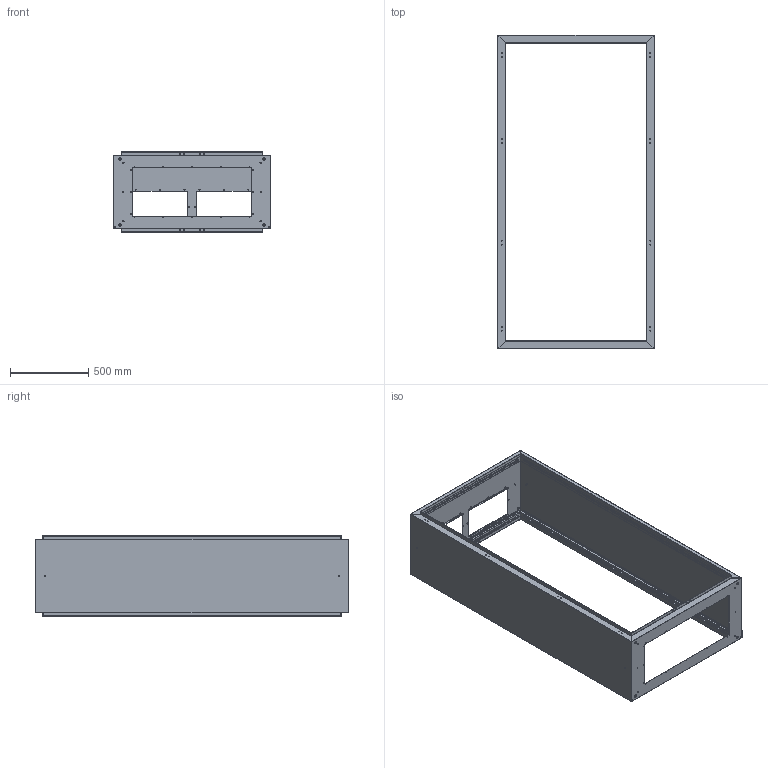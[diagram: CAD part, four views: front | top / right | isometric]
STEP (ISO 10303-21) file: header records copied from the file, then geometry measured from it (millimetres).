
FILE_DESCRIPTION (( 'STEP AP203' ), '1' );
FILE_NAME ('1000x2000x500.STEP', '2021-11-11T16:56:50', ( '' ), ( '' ), 'SwSTEP 2.0', 'SolidWorks 2019', '' );
FILE_SCHEMA (( 'CONFIG_CONTROL_DESIGN' ));
Length unit declared in the file: millimetre
Products named in the file (4): 1000x2000x500; Alt Kapak 1,5mm_monoblok_tekkapakrevize_PP 16.1023 1000Gx500D ALT; Üst Kapak 1,5mm_monoblok_tekkapakrevize_PP 16.1014 1000Gx500D šST; Yan Kapak 1,5mm_monoblok_tekkapakrevize_PP 16.1007 - 2000Yx500D YAN
Assembly tree (4 placements, depth 2):
  1000x2000x500
    Alt Kapak 1,5mm_monoblok_tekkapakrevize_PP 16.1023 1000Gx500D ALT
    Üst Kapak 1,5mm_monoblok_tekkapakrevize_PP 16.1014 1000Gx500D šST
    Yan Kapak 1,5mm_monoblok_tekkapakrevize_PP 16.1007 - 2000Yx500D YAN  x2
Bounding box: 1000 x 2000 x 512 mm (x, y, z)
Volume: 6063483.7 mm3; surface area: 8188126.3 mm2
Topology: 4 solids, 4 shells, 5928 faces, 17480 edges, 11568 vertices
Faces by surface type: plane 3852, cylinder 2060, bspline 16
Entity records: 139362 total; most frequent: CARTESIAN_POINT 24183, ORIENTED_EDGE 23672, DIRECTION 22626, EDGE_CURVE 11836, VECTOR 9036, LINE 9036, VERTEX_POINT 7824, AXIS2_PLACEMENT_3D 6795
